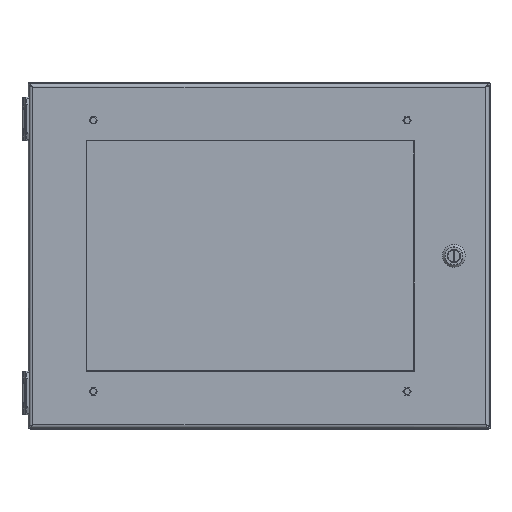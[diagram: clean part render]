
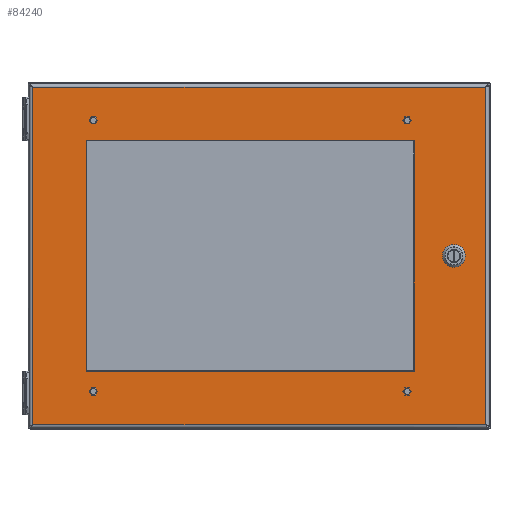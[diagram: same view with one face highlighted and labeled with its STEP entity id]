
A CAD part, top view. The second image highlights one B-rep face of the part: STEP entity #84240.
In plain terms, the highlighted planar face has unit normal (0, 0, 1).
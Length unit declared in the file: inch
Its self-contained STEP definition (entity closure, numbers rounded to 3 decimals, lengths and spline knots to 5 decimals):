
#81865=DIRECTION('',(0.707,0.707,0.));
#81866=VECTOR('',#81865,0.30984);
#81867=CARTESIAN_POINT('',(6.44447,0.08845,0.81));
#81868=LINE('',#81867,#81866);
#81872=CARTESIAN_POINT('',(6.752,0.,0.81));
#81873=DIRECTION('',(0.,0.,1.));
#81874=DIRECTION('',(-0.961,0.276,0.));
#81875=AXIS2_PLACEMENT_3D('',#81872,#81873,#81874);
#81880=DIRECTION('',(-0.707,0.707,0.));
#81881=VECTOR('',#81880,0.30984);
#81882=CARTESIAN_POINT('',(6.66355,-0.30753,0.81));
#81883=LINE('',#81882,#81881);
#81887=CARTESIAN_POINT('',(6.752,0.,0.81));
#81888=DIRECTION('',(0.,0.,1.));
#81889=DIRECTION('',(-0.276,-0.961,0.));
#81890=AXIS2_PLACEMENT_3D('',#81887,#81888,#81889);
#81895=DIRECTION('',(-0.707,-0.707,0.));
#81896=VECTOR('',#81895,0.30984);
#81897=CARTESIAN_POINT('',(7.05953,-0.08845,0.81));
#81898=LINE('',#81897,#81896);
#81902=CARTESIAN_POINT('',(6.752,0.,0.81));
#81903=DIRECTION('',(0.,0.,1.));
#81904=DIRECTION('',(0.961,-0.276,0.));
#81905=AXIS2_PLACEMENT_3D('',#81902,#81903,#81904);
#81910=DIRECTION('',(0.707,-0.707,0.));
#81911=VECTOR('',#81910,0.30984);
#81912=CARTESIAN_POINT('',(6.84045,0.30753,0.81));
#81913=LINE('',#81912,#81911);
#81917=CARTESIAN_POINT('',(6.752,0.,0.81));
#81918=DIRECTION('',(0.,0.,1.));
#81919=DIRECTION('',(0.276,0.961,0.));
#81920=AXIS2_PLACEMENT_3D('',#81917,#81918,#81919);
#81925=DIRECTION('',(1.,0.,0.));
#81926=VECTOR('',#81925,11.375);
#81927=CARTESIAN_POINT('',(-6.00005,4.,0.81));
#81928=LINE('',#81927,#81926);
#81932=DIRECTION('',(0.,1.,0.));
#81933=VECTOR('',#81932,8.);
#81934=CARTESIAN_POINT('',(-6.00005,-4.,0.81));
#81935=LINE('',#81934,#81933);
#81939=DIRECTION('',(-1.,0.,0.));
#81940=VECTOR('',#81939,11.375);
#81941=CARTESIAN_POINT('',(5.37495,-4.,0.81));
#81942=LINE('',#81941,#81940);
#81946=DIRECTION('',(0.,-1.,0.));
#81947=VECTOR('',#81946,8.);
#81948=CARTESIAN_POINT('',(5.37495,4.,0.81));
#81949=LINE('',#81948,#81947);
#81953=CARTESIAN_POINT('',(5.12495,4.6975,0.81));
#81954=DIRECTION('',(0.,0.,1.));
#81955=DIRECTION('',(-1.,0.,0.));
#81956=AXIS2_PLACEMENT_3D('',#81953,#81954,#81955);
#81961=CARTESIAN_POINT('',(5.12495,4.6975,0.81));
#81962=DIRECTION('',(0.,0.,1.));
#81963=DIRECTION('',(1.,0.,0.));
#81964=AXIS2_PLACEMENT_3D('',#81961,#81962,#81963);
#81969=CARTESIAN_POINT('',(-5.75005,4.6975,0.81));
#81970=DIRECTION('',(0.,0.,1.));
#81971=DIRECTION('',(-1.,0.,0.));
#81972=AXIS2_PLACEMENT_3D('',#81969,#81970,#81971);
#81977=CARTESIAN_POINT('',(-5.75005,4.6975,0.81));
#81978=DIRECTION('',(0.,0.,1.));
#81979=DIRECTION('',(1.,0.,0.));
#81980=AXIS2_PLACEMENT_3D('',#81977,#81978,#81979);
#81985=CARTESIAN_POINT('',(-5.75005,-4.6975,0.81));
#81986=DIRECTION('',(0.,0.,1.));
#81987=DIRECTION('',(-1.,0.,0.));
#81988=AXIS2_PLACEMENT_3D('',#81985,#81986,#81987);
#81993=CARTESIAN_POINT('',(-5.75005,-4.6975,0.81));
#81994=DIRECTION('',(0.,0.,1.));
#81995=DIRECTION('',(1.,0.,0.));
#81996=AXIS2_PLACEMENT_3D('',#81993,#81994,#81995);
#82001=CARTESIAN_POINT('',(5.12495,-4.6975,0.81));
#82002=DIRECTION('',(0.,0.,1.));
#82003=DIRECTION('',(-1.,0.,0.));
#82004=AXIS2_PLACEMENT_3D('',#82001,#82002,#82003);
#82009=CARTESIAN_POINT('',(5.12495,-4.6975,0.81));
#82010=DIRECTION('',(0.,0.,1.));
#82011=DIRECTION('',(1.,0.,0.));
#82012=AXIS2_PLACEMENT_3D('',#82009,#82010,#82011);
#82017=DIRECTION('',(1.,0.,0.));
#82018=VECTOR('',#82017,15.7);
#82019=CARTESIAN_POINT('',(-7.85,-5.85,0.81));
#82020=LINE('',#82019,#82018);
#82137=DIRECTION('',(0.,1.,0.));
#82138=VECTOR('',#82137,11.7);
#82139=CARTESIAN_POINT('',(7.85,-5.85,0.81));
#82140=LINE('',#82139,#82138);
#82185=DIRECTION('',(-1.,0.,0.));
#82186=VECTOR('',#82185,15.7);
#82187=CARTESIAN_POINT('',(7.85,5.85,0.81));
#82188=LINE('',#82187,#82186);
#82290=DIRECTION('',(0.,-1.,0.));
#82291=VECTOR('',#82290,11.7);
#82292=CARTESIAN_POINT('',(-7.85,5.85,0.81));
#82293=LINE('',#82292,#82291);
#83869=CARTESIAN_POINT('',(-7.85,5.85,0.81));
#83870=CARTESIAN_POINT('',(-7.85,-5.85,0.81));
#83871=VERTEX_POINT('',#83869);
#83872=VERTEX_POINT('',#83870);
#83873=CARTESIAN_POINT('',(7.85,-5.85,0.81));
#83874=CARTESIAN_POINT('',(7.85,5.85,0.81));
#83875=VERTEX_POINT('',#83873);
#83876=VERTEX_POINT('',#83874);
#83969=CARTESIAN_POINT('',(6.44447,0.08845,0.81));
#83970=CARTESIAN_POINT('',(6.66355,0.30753,0.81));
#83971=VERTEX_POINT('',#83969);
#83972=VERTEX_POINT('',#83970);
#83973=CARTESIAN_POINT('',(6.84045,0.30753,0.81));
#83974=VERTEX_POINT('',#83973);
#83975=CARTESIAN_POINT('',(7.05953,0.08845,0.81));
#83976=VERTEX_POINT('',#83975);
#83977=CARTESIAN_POINT('',(7.05953,-0.08845,0.81));
#83978=VERTEX_POINT('',#83977);
#83979=CARTESIAN_POINT('',(6.84045,-0.30753,0.81));
#83980=VERTEX_POINT('',#83979);
#83981=CARTESIAN_POINT('',(6.66355,-0.30753,0.81));
#83982=VERTEX_POINT('',#83981);
#83983=CARTESIAN_POINT('',(6.44447,-0.08845,0.81));
#83984=VERTEX_POINT('',#83983);
#84009=CARTESIAN_POINT('',(-6.00005,4.,0.81));
#84010=CARTESIAN_POINT('',(5.37495,4.,0.81));
#84011=VERTEX_POINT('',#84009);
#84012=VERTEX_POINT('',#84010);
#84013=CARTESIAN_POINT('',(5.37495,-4.,0.81));
#84014=VERTEX_POINT('',#84013);
#84015=CARTESIAN_POINT('',(-6.00005,-4.,0.81));
#84016=VERTEX_POINT('',#84015);
#84025=CARTESIAN_POINT('',(5.0184,4.6975,0.81));
#84026=CARTESIAN_POINT('',(5.2315,4.6975,0.81));
#84027=VERTEX_POINT('',#84025);
#84028=VERTEX_POINT('',#84026);
#84029=CARTESIAN_POINT('',(-5.8566,4.6975,0.81));
#84030=CARTESIAN_POINT('',(-5.6435,4.6975,0.81));
#84031=VERTEX_POINT('',#84029);
#84032=VERTEX_POINT('',#84030);
#84033=CARTESIAN_POINT('',(-5.8566,-4.6975,0.81));
#84034=CARTESIAN_POINT('',(-5.6435,-4.6975,0.81));
#84035=VERTEX_POINT('',#84033);
#84036=VERTEX_POINT('',#84034);
#84037=CARTESIAN_POINT('',(5.0184,-4.6975,0.81));
#84038=CARTESIAN_POINT('',(5.2315,-4.6975,0.81));
#84039=VERTEX_POINT('',#84037);
#84040=VERTEX_POINT('',#84038);
#84173=CARTESIAN_POINT('',(0.,0.,0.81));
#84174=DIRECTION('',(0.,0.,1.));
#84175=DIRECTION('',(1.,0.,0.));
#84176=AXIS2_PLACEMENT_3D('',#84173,#84174,#84175);
#84177=PLANE('',#84176);
#84179=ORIENTED_EDGE('',*,*,#84178,.F.);
#84181=ORIENTED_EDGE('',*,*,#84180,.F.);
#84183=ORIENTED_EDGE('',*,*,#84182,.F.);
#84185=ORIENTED_EDGE('',*,*,#84184,.F.);
#84186=EDGE_LOOP('',(#84179,#84181,#84183,#84185));
#84187=FACE_OUTER_BOUND('',#84186,.F.);
#84189=ORIENTED_EDGE('',*,*,#84188,.F.);
#84191=ORIENTED_EDGE('',*,*,#84190,.T.);
#84193=ORIENTED_EDGE('',*,*,#84192,.F.);
#84195=ORIENTED_EDGE('',*,*,#84194,.T.);
#84197=ORIENTED_EDGE('',*,*,#84196,.F.);
#84199=ORIENTED_EDGE('',*,*,#84198,.T.);
#84201=ORIENTED_EDGE('',*,*,#84200,.F.);
#84203=ORIENTED_EDGE('',*,*,#84202,.T.);
#84204=EDGE_LOOP('',(#84189,#84191,#84193,#84195,#84197,#84199,#84201,#84203));
#84205=FACE_BOUND('',#84204,.F.);
#84207=ORIENTED_EDGE('',*,*,#84206,.F.);
#84209=ORIENTED_EDGE('',*,*,#84208,.F.);
#84211=ORIENTED_EDGE('',*,*,#84210,.F.);
#84213=ORIENTED_EDGE('',*,*,#84212,.F.);
#84214=EDGE_LOOP('',(#84207,#84209,#84211,#84213));
#84215=FACE_BOUND('',#84214,.F.);
#84217=ORIENTED_EDGE('',*,*,#84216,.T.);
#84219=ORIENTED_EDGE('',*,*,#84218,.T.);
#84220=EDGE_LOOP('',(#84217,#84219));
#84221=FACE_BOUND('',#84220,.F.);
#84223=ORIENTED_EDGE('',*,*,#84222,.T.);
#84225=ORIENTED_EDGE('',*,*,#84224,.T.);
#84226=EDGE_LOOP('',(#84223,#84225));
#84227=FACE_BOUND('',#84226,.F.);
#84229=ORIENTED_EDGE('',*,*,#84228,.T.);
#84231=ORIENTED_EDGE('',*,*,#84230,.T.);
#84232=EDGE_LOOP('',(#84229,#84231));
#84233=FACE_BOUND('',#84232,.F.);
#84235=ORIENTED_EDGE('',*,*,#84234,.T.);
#84237=ORIENTED_EDGE('',*,*,#84236,.T.);
#84238=EDGE_LOOP('',(#84235,#84237));
#84239=FACE_BOUND('',#84238,.F.);
#81876=CIRCLE('',#81875,0.32);
#81891=CIRCLE('',#81890,0.32);
#81906=CIRCLE('',#81905,0.32);
#81921=CIRCLE('',#81920,0.32);
#81957=CIRCLE('',#81956,0.10655);
#81965=CIRCLE('',#81964,0.10655);
#81973=CIRCLE('',#81972,0.10655);
#81981=CIRCLE('',#81980,0.10655);
#81989=CIRCLE('',#81988,0.10655);
#81997=CIRCLE('',#81996,0.10655);
#82005=CIRCLE('',#82004,0.10655);
#82013=CIRCLE('',#82012,0.10655);
#84178=EDGE_CURVE('',#83872,#83875,#82020,.T.);
#84180=EDGE_CURVE('',#83871,#83872,#82293,.T.);
#84182=EDGE_CURVE('',#83876,#83871,#82188,.T.);
#84184=EDGE_CURVE('',#83875,#83876,#82140,.T.);
#84188=EDGE_CURVE('',#83971,#83972,#81868,.T.);
#84190=EDGE_CURVE('',#83971,#83984,#81876,.T.);
#84192=EDGE_CURVE('',#83982,#83984,#81883,.T.);
#84194=EDGE_CURVE('',#83982,#83980,#81891,.T.);
#84196=EDGE_CURVE('',#83978,#83980,#81898,.T.);
#84198=EDGE_CURVE('',#83978,#83976,#81906,.T.);
#84200=EDGE_CURVE('',#83974,#83976,#81913,.T.);
#84202=EDGE_CURVE('',#83974,#83972,#81921,.T.);
#84206=EDGE_CURVE('',#84011,#84012,#81928,.T.);
#84208=EDGE_CURVE('',#84016,#84011,#81935,.T.);
#84210=EDGE_CURVE('',#84014,#84016,#81942,.T.);
#84212=EDGE_CURVE('',#84012,#84014,#81949,.T.);
#84216=EDGE_CURVE('',#84027,#84028,#81957,.T.);
#84218=EDGE_CURVE('',#84028,#84027,#81965,.T.);
#84222=EDGE_CURVE('',#84031,#84032,#81973,.T.);
#84224=EDGE_CURVE('',#84032,#84031,#81981,.T.);
#84228=EDGE_CURVE('',#84035,#84036,#81989,.T.);
#84230=EDGE_CURVE('',#84036,#84035,#81997,.T.);
#84234=EDGE_CURVE('',#84039,#84040,#82005,.T.);
#84236=EDGE_CURVE('',#84040,#84039,#82013,.T.);
#84240=ADVANCED_FACE('',(#84187,#84205,#84215,#84221,#84227,#84233,#84239),
#84177,.T.);
